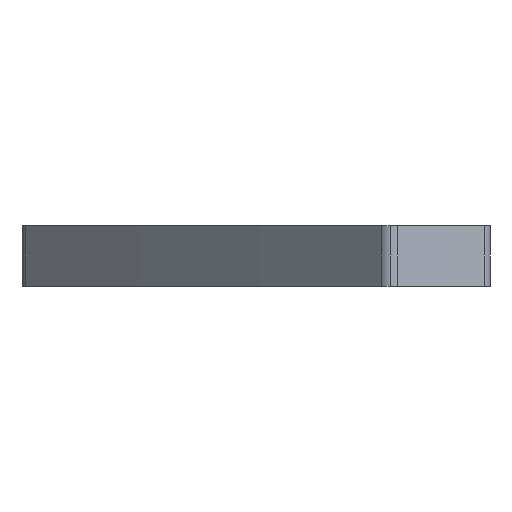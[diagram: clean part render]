
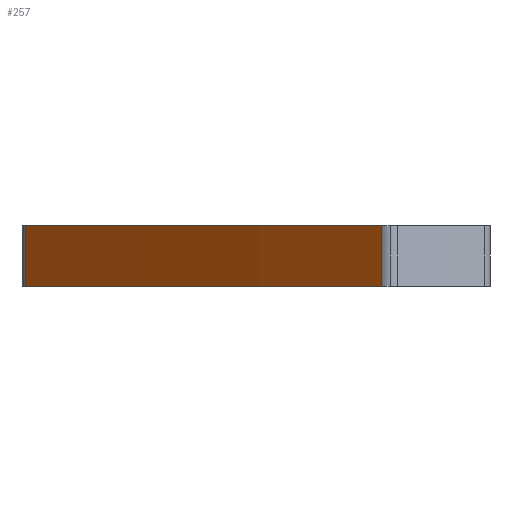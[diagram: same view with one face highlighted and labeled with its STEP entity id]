
A CAD part, left-side view. The second image highlights one B-rep face of the part: STEP entity #257.
In plain terms, the highlighted cylindrical face has radius 145.179 mm (diameter 290.359 mm), a partial arc.
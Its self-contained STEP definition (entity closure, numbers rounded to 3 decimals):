
#242 = EDGE_CURVE ( 'NONE', #250, #251, #466, .T. ) ;
#243 = VERTEX_POINT ( 'NONE', #462 ) ;
#244 = ORIENTED_EDGE ( 'NONE', *, *, #245, .T. ) ;
#245 = EDGE_CURVE ( 'NONE', #243, #250, #461, .T. ) ;
#250 = VERTEX_POINT ( 'NONE', #450 ) ;
#251 = VERTEX_POINT ( 'NONE', #449 ) ;
#252 = ORIENTED_EDGE ( 'NONE', *, *, #253, .T. ) ;
#253 = EDGE_CURVE ( 'NONE', #251, #254, #448, .T. ) ;
#254 = VERTEX_POINT ( 'NONE', #444 ) ;
#255 = ORIENTED_EDGE ( 'NONE', *, *, #256, .F. ) ;
#256 = EDGE_CURVE ( 'NONE', #243, #254, #442, .T. ) ;
#257 = ADVANCED_FACE ( 'NONE', ( #443 ), #436, .T. ) ;
#258 = ORIENTED_EDGE ( 'NONE', *, *, #242, .T. ) ;
#260 = EDGE_LOOP ( 'NONE', ( #258, #252, #255, #244 ) ) ;
#342 = CARTESIAN_POINT ( 'NONE',  ( 103.318, -100.192, 0. ) ) ;
#435 = AXIS2_PLACEMENT_3D ( 'NONE', #437, #551, #550 ) ;
#436 = CYLINDRICAL_SURFACE ( 'NONE', #435, 145.179 ) ;
#437 = CARTESIAN_POINT ( 'NONE',  ( 103.318, -100.192, 1. ) ) ;
#438 = DIRECTION ( 'NONE',  ( -1., 0., 0. ) ) ;
#439 = DIRECTION ( 'NONE',  ( 0., 0., 1. ) ) ;
#440 = CARTESIAN_POINT ( 'NONE',  ( 103.318, -100.192, 1. ) ) ;
#441 = AXIS2_PLACEMENT_3D ( 'NONE', #440, #439, #438 ) ;
#442 = CIRCLE ( 'NONE', #441, 145.179 ) ;
#443 = FACE_OUTER_BOUND ( 'NONE', #260, .T. ) ;
#444 = CARTESIAN_POINT ( 'NONE',  ( 0.112, 1.914, 1. ) ) ;
#445 = DIRECTION ( 'NONE',  ( 0., 0., 1. ) ) ;
#446 = VECTOR ( 'NONE', #445, 1000. ) ;
#447 = CARTESIAN_POINT ( 'NONE',  ( 0.112, 1.914, 1. ) ) ;
#448 = LINE ( 'NONE', #447, #446 ) ;
#449 = CARTESIAN_POINT ( 'NONE',  ( 0.112, 1.914, 0. ) ) ;
#450 = CARTESIAN_POINT ( 'NONE',  ( 6.258, 7.772, 0. ) ) ;
#458 = DIRECTION ( 'NONE',  ( 0., 0., -1. ) ) ;
#459 = VECTOR ( 'NONE', #458, 1000. ) ;
#460 = CARTESIAN_POINT ( 'NONE',  ( 6.258, 7.772, 1. ) ) ;
#461 = LINE ( 'NONE', #460, #459 ) ;
#462 = CARTESIAN_POINT ( 'NONE',  ( 6.258, 7.772, 1. ) ) ;
#463 = DIRECTION ( 'NONE',  ( -1., 0., 0. ) ) ;
#464 = DIRECTION ( 'NONE',  ( 0., 0., 1. ) ) ;
#465 = AXIS2_PLACEMENT_3D ( 'NONE', #342, #464, #463 ) ;
#466 = CIRCLE ( 'NONE', #465, 145.179 ) ;
#550 = DIRECTION ( 'NONE',  ( -1., 0., 0. ) ) ;
#551 = DIRECTION ( 'NONE',  ( 0., 0., -1. ) ) ;
